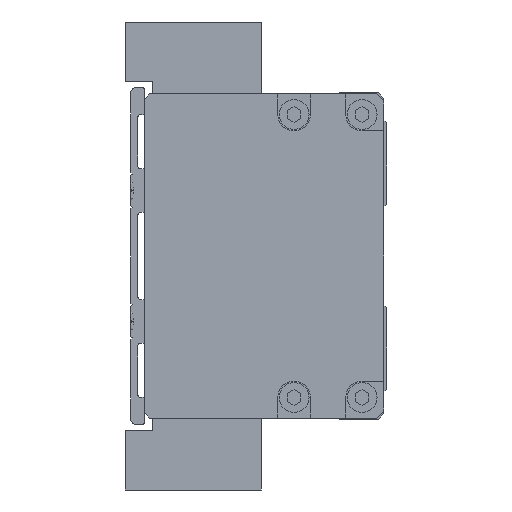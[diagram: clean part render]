
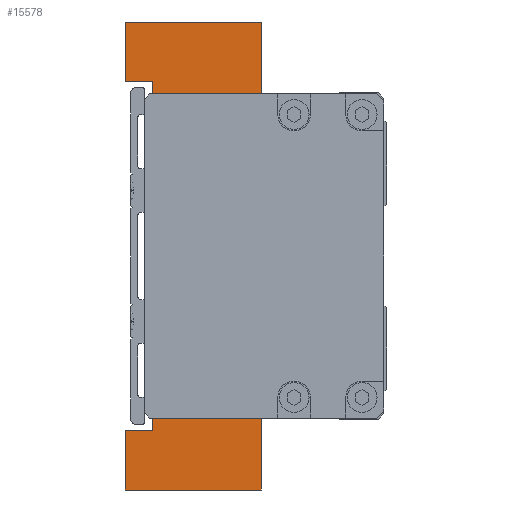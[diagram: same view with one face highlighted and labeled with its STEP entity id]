
A CAD part, left-side view. The second image highlights one B-rep face of the part: STEP entity #15578.
In plain terms, the highlighted planar face has unit normal (-1, 0, 0).
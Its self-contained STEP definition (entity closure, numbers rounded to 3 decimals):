
#73 = CARTESIAN_POINT ( 'NONE',  ( -77., 0., 43. ) ) ;
#181 = LINE ( 'NONE', #73, #791 ) ;
#187 = CARTESIAN_POINT ( 'NONE',  ( -77., 9., -21. ) ) ;
#231 = CARTESIAN_POINT ( 'NONE',  ( -77., 10., 0. ) ) ;
#256 = VECTOR ( 'NONE', #1092, 1000. ) ;
#590 = VERTEX_POINT ( 'NONE', #1250 ) ;
#635 = VECTOR ( 'NONE', #18260, 1000. ) ;
#670 = CARTESIAN_POINT ( 'NONE',  ( -77., 10., 21. ) ) ;
#791 = VECTOR ( 'NONE', #17817, 1000. ) ;
#965 = VECTOR ( 'NONE', #5439, 1000. ) ;
#978 = VERTEX_POINT ( 'NONE', #1485 ) ;
#1019 = CARTESIAN_POINT ( 'NONE',  ( -77., 25., -32. ) ) ;
#1092 = DIRECTION ( 'NONE',  ( 0., -1., 0. ) ) ;
#1250 = CARTESIAN_POINT ( 'NONE',  ( -77., 5., 28. ) ) ;
#1277 = VECTOR ( 'NONE', #4607, 1000. ) ;
#1485 = CARTESIAN_POINT ( 'NONE',  ( -77., 20., -32. ) ) ;
#1514 = DIRECTION ( 'NONE',  ( 0., 0., -1. ) ) ;
#1836 = LINE ( 'NONE', #1019, #635 ) ;
#1967 = DIRECTION ( 'NONE',  ( 0., 1., 0. ) ) ;
#2037 = EDGE_CURVE ( 'NONE', #20736, #7250, #10116, .T. ) ;
#2068 = DIRECTION ( 'NONE',  ( 0., 1., 0. ) ) ;
#2183 = DIRECTION ( 'NONE',  ( 1., 0., 0. ) ) ;
#2192 = ORIENTED_EDGE ( 'NONE', *, *, #10253, .F. ) ;
#2300 = DIRECTION ( 'NONE',  ( 0., 0., 1. ) ) ;
#2823 = ORIENTED_EDGE ( 'NONE', *, *, #2037, .T. ) ;
#2947 = CARTESIAN_POINT ( 'NONE',  ( -77., 9., -21. ) ) ;
#3209 = EDGE_CURVE ( 'NONE', #6736, #17253, #17840, .T. ) ;
#3390 = CARTESIAN_POINT ( 'NONE',  ( -77., 0., 43. ) ) ;
#3786 = VECTOR ( 'NONE', #11031, 1000. ) ;
#3870 = LINE ( 'NONE', #21730, #14693 ) ;
#3886 = ORIENTED_EDGE ( 'NONE', *, *, #15478, .F. ) ;
#3972 = CARTESIAN_POINT ( 'NONE',  ( -77., 20., 32. ) ) ;
#4055 = EDGE_CURVE ( 'NONE', #10901, #978, #1836, .T. ) ;
#4061 = CARTESIAN_POINT ( 'NONE',  ( -77., 0., -43. ) ) ;
#4158 = ORIENTED_EDGE ( 'NONE', *, *, #24253, .F. ) ;
#4184 = LINE ( 'NONE', #8046, #8987 ) ;
#4607 = DIRECTION ( 'NONE',  ( 0., 0., -1. ) ) ;
#4667 = ORIENTED_EDGE ( 'NONE', *, *, #5785, .F. ) ;
#4967 = ORIENTED_EDGE ( 'NONE', *, *, #19574, .T. ) ;
#4986 = CARTESIAN_POINT ( 'NONE',  ( -77., 20., 32. ) ) ;
#5038 = CARTESIAN_POINT ( 'NONE',  ( -77., 10., 21. ) ) ;
#5094 = DIRECTION ( 'NONE',  ( 0., 0., -1. ) ) ;
#5373 = DIRECTION ( 'NONE',  ( 0., -1., 0. ) ) ;
#5434 = EDGE_CURVE ( 'NONE', #20736, #8735, #14088, .T. ) ;
#5439 = DIRECTION ( 'NONE',  ( 0., 0., 1. ) ) ;
#5613 = EDGE_CURVE ( 'NONE', #6022, #590, #4184, .T. ) ;
#5785 = EDGE_CURVE ( 'NONE', #14212, #10010, #3870, .T. ) ;
#6022 = VERTEX_POINT ( 'NONE', #9483 ) ;
#6215 = ORIENTED_EDGE ( 'NONE', *, *, #6619, .F. ) ;
#6619 = EDGE_CURVE ( 'NONE', #14209, #6736, #23049, .T. ) ;
#6736 = VERTEX_POINT ( 'NONE', #23418 ) ;
#6786 = LINE ( 'NONE', #22491, #21491 ) ;
#7250 = VERTEX_POINT ( 'NONE', #13877 ) ;
#7814 = EDGE_LOOP ( 'NONE', ( #2823, #21199, #10374, #23896, #3886, #2192, #18470, #6215, #23892, #21573, #13180, #17460, #15364, #4158, #12781, #4667, #4967, #20128 ) ) ;
#7984 = VERTEX_POINT ( 'NONE', #18314 ) ;
#8046 = CARTESIAN_POINT ( 'NONE',  ( -77., 0., 28. ) ) ;
#8239 = AXIS2_PLACEMENT_3D ( 'NONE', #231, #2183, #17644 ) ;
#8735 = VERTEX_POINT ( 'NONE', #15187 ) ;
#8943 = FACE_OUTER_BOUND ( 'NONE', #7814, .T. ) ;
#8972 = LINE ( 'NONE', #22967, #21286 ) ;
#8987 = VECTOR ( 'NONE', #2068, 1000. ) ;
#9328 = CARTESIAN_POINT ( 'NONE',  ( -77., 25., -43. ) ) ;
#9483 = CARTESIAN_POINT ( 'NONE',  ( -77., 0., 28. ) ) ;
#9800 = LINE ( 'NONE', #19427, #11005 ) ;
#9858 = DIRECTION ( 'NONE',  ( 0., 1., 0. ) ) ;
#10010 = VERTEX_POINT ( 'NONE', #19923 ) ;
#10116 = LINE ( 'NONE', #5038, #21207 ) ;
#10253 = EDGE_CURVE ( 'NONE', #17253, #12089, #11914, .T. ) ;
#10374 = ORIENTED_EDGE ( 'NONE', *, *, #20200, .F. ) ;
#10901 = VERTEX_POINT ( 'NONE', #13580 ) ;
#11005 = VECTOR ( 'NONE', #2300, 1000. ) ;
#11031 = DIRECTION ( 'NONE',  ( 0., -1., 0. ) ) ;
#11558 = LINE ( 'NONE', #187, #14860 ) ;
#11583 = CARTESIAN_POINT ( 'NONE',  ( -77., 0., -43. ) ) ;
#11620 = CARTESIAN_POINT ( 'NONE',  ( -77., 0., -28. ) ) ;
#11780 = PLANE ( 'NONE',  #8239 ) ;
#11914 = LINE ( 'NONE', #17137, #3786 ) ;
#12089 = VERTEX_POINT ( 'NONE', #3390 ) ;
#12328 = DIRECTION ( 'NONE',  ( 0., -1., 0. ) ) ;
#12781 = ORIENTED_EDGE ( 'NONE', *, *, #20270, .F. ) ;
#12804 = VERTEX_POINT ( 'NONE', #9328 ) ;
#13180 = ORIENTED_EDGE ( 'NONE', *, *, #23755, .F. ) ;
#13200 = VECTOR ( 'NONE', #16974, 1000. ) ;
#13491 = CARTESIAN_POINT ( 'NONE',  ( -77., 25., 32. ) ) ;
#13513 = LINE ( 'NONE', #23815, #256 ) ;
#13580 = CARTESIAN_POINT ( 'NONE',  ( -77., 25., -32. ) ) ;
#13877 = CARTESIAN_POINT ( 'NONE',  ( -77., 9., 21. ) ) ;
#13887 = EDGE_CURVE ( 'NONE', #21665, #12804, #14425, .T. ) ;
#14088 = LINE ( 'NONE', #24366, #13200 ) ;
#14166 = CARTESIAN_POINT ( 'NONE',  ( -77., 25., -43. ) ) ;
#14209 = VERTEX_POINT ( 'NONE', #4986 ) ;
#14212 = VERTEX_POINT ( 'NONE', #2947 ) ;
#14216 = LINE ( 'NONE', #17944, #19611 ) ;
#14425 = LINE ( 'NONE', #4061, #15349 ) ;
#14693 = VECTOR ( 'NONE', #12328, 1000. ) ;
#14860 = VECTOR ( 'NONE', #1967, 1000. ) ;
#15187 = CARTESIAN_POINT ( 'NONE',  ( -77., 10., -21. ) ) ;
#15237 = DIRECTION ( 'NONE',  ( 0., 1., 0. ) ) ;
#15349 = VECTOR ( 'NONE', #9858, 1000. ) ;
#15364 = ORIENTED_EDGE ( 'NONE', *, *, #16605, .F. ) ;
#15376 = VERTEX_POINT ( 'NONE', #11620 ) ;
#15434 = LINE ( 'NONE', #23919, #1277 ) ;
#15478 = EDGE_CURVE ( 'NONE', #12089, #6022, #181, .T. ) ;
#15578 = ADVANCED_FACE ( 'NONE', ( #8943 ), #11780, .F. ) ;
#16158 = VECTOR ( 'NONE', #15237, 1000. ) ;
#16605 = EDGE_CURVE ( 'NONE', #15376, #21665, #8972, .T. ) ;
#16974 = DIRECTION ( 'NONE',  ( 0., 0., -1. ) ) ;
#17137 = CARTESIAN_POINT ( 'NONE',  ( -77., 25., 43. ) ) ;
#17253 = VERTEX_POINT ( 'NONE', #23026 ) ;
#17460 = ORIENTED_EDGE ( 'NONE', *, *, #13887, .F. ) ;
#17644 = DIRECTION ( 'NONE',  ( 0., 0., -1. ) ) ;
#17817 = DIRECTION ( 'NONE',  ( 0., 0., -1. ) ) ;
#17830 = CARTESIAN_POINT ( 'NONE',  ( -77., 5., 21. ) ) ;
#17840 = LINE ( 'NONE', #13491, #965 ) ;
#17944 = CARTESIAN_POINT ( 'NONE',  ( -77., 5., -21. ) ) ;
#18071 = EDGE_CURVE ( 'NONE', #978, #14209, #9800, .T. ) ;
#18260 = DIRECTION ( 'NONE',  ( 0., -1., 0. ) ) ;
#18314 = CARTESIAN_POINT ( 'NONE',  ( -77., 5., -28. ) ) ;
#18371 = LINE ( 'NONE', #14166, #22263 ) ;
#18470 = ORIENTED_EDGE ( 'NONE', *, *, #3209, .F. ) ;
#18849 = EDGE_CURVE ( 'NONE', #7250, #20691, #6786, .T. ) ;
#19427 = CARTESIAN_POINT ( 'NONE',  ( -77., 20., -32. ) ) ;
#19574 = EDGE_CURVE ( 'NONE', #14212, #8735, #11558, .T. ) ;
#19611 = VECTOR ( 'NONE', #5094, 1000. ) ;
#19923 = CARTESIAN_POINT ( 'NONE',  ( -77., 5., -21. ) ) ;
#20128 = ORIENTED_EDGE ( 'NONE', *, *, #5434, .F. ) ;
#20200 = EDGE_CURVE ( 'NONE', #590, #20691, #15434, .T. ) ;
#20270 = EDGE_CURVE ( 'NONE', #10010, #7984, #14216, .T. ) ;
#20691 = VERTEX_POINT ( 'NONE', #17830 ) ;
#20736 = VERTEX_POINT ( 'NONE', #670 ) ;
#21199 = ORIENTED_EDGE ( 'NONE', *, *, #18849, .T. ) ;
#21207 = VECTOR ( 'NONE', #24259, 1000. ) ;
#21286 = VECTOR ( 'NONE', #1514, 1000. ) ;
#21491 = VECTOR ( 'NONE', #5373, 1000. ) ;
#21573 = ORIENTED_EDGE ( 'NONE', *, *, #4055, .F. ) ;
#21665 = VERTEX_POINT ( 'NONE', #11583 ) ;
#21730 = CARTESIAN_POINT ( 'NONE',  ( -77., 9., -21. ) ) ;
#22263 = VECTOR ( 'NONE', #23848, 1000. ) ;
#22491 = CARTESIAN_POINT ( 'NONE',  ( -77., 9., 21. ) ) ;
#22967 = CARTESIAN_POINT ( 'NONE',  ( -77., 0., -28. ) ) ;
#23026 = CARTESIAN_POINT ( 'NONE',  ( -77., 25., 43. ) ) ;
#23049 = LINE ( 'NONE', #3972, #16158 ) ;
#23418 = CARTESIAN_POINT ( 'NONE',  ( -77., 25., 32. ) ) ;
#23755 = EDGE_CURVE ( 'NONE', #12804, #10901, #18371, .T. ) ;
#23815 = CARTESIAN_POINT ( 'NONE',  ( -77., 5., -28. ) ) ;
#23848 = DIRECTION ( 'NONE',  ( 0., 0., 1. ) ) ;
#23892 = ORIENTED_EDGE ( 'NONE', *, *, #18071, .F. ) ;
#23896 = ORIENTED_EDGE ( 'NONE', *, *, #5613, .F. ) ;
#23919 = CARTESIAN_POINT ( 'NONE',  ( -77., 5., 28. ) ) ;
#24253 = EDGE_CURVE ( 'NONE', #7984, #15376, #13513, .T. ) ;
#24259 = DIRECTION ( 'NONE',  ( 0., -1., 0. ) ) ;
#24366 = CARTESIAN_POINT ( 'NONE',  ( -77., 10., 21. ) ) ;
